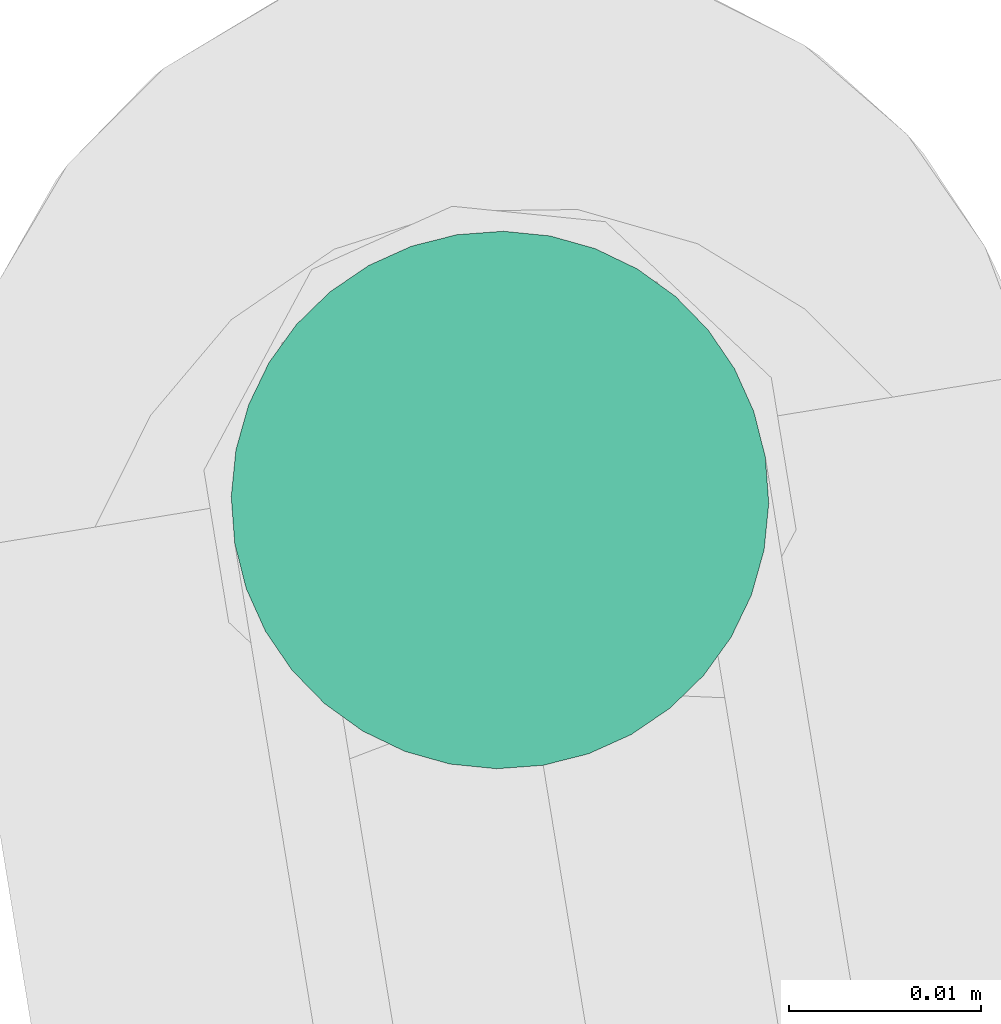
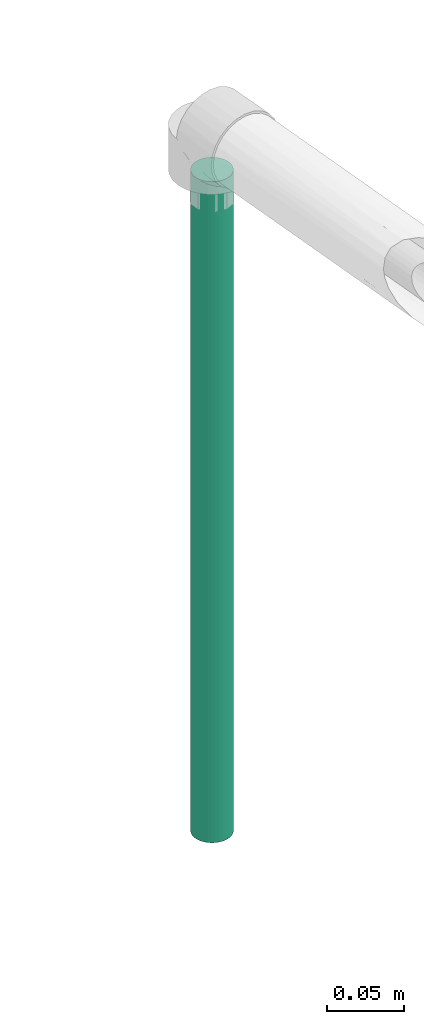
# One storey, part 55 of 56: 1 flow segment.
"""IFC2X3 building model written with IfcOpenShell, lengths in millimetres."""

from ifc_helpers import new_model, entity, si_unit, converted_unit, derived_unit, direction, frame, origin, origin_with_axes, place, context, subcontext, project, spatial, faceted_brep, material, type_object, element, save


model = new_model("IFC2X3")

# Units and contexts
model_context = context("Model", 3, precision=0.01, world=origin(), true_north=direction((6.12323399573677e-17, 1.0)))
plan_context = context("Plan", 3, precision=1e-05, world=origin_with_axes())
body_context = subcontext(model_context, "Body", "Model", "MODEL_VIEW")
ifc_project = project(units=[converted_unit("PLANEANGLEUNIT", "DEGREE", entity("IfcPositiveLengthMeasure", 0.0174532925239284), si_unit("PLANEANGLEUNIT", "RADIAN"), dimensions=[0, 0, 0, 0, 0, 0, 0]), si_unit("AREAUNIT", "SQUARE_METRE"), si_unit("LENGTHUNIT", "METRE", prefix="MILLI"), si_unit("MASSUNIT", "GRAM", prefix="KILO"), si_unit("POWERUNIT", "WATT"), si_unit("PRESSUREUNIT", "PASCAL", prefix="KILO"), si_unit("FORCEUNIT", "NEWTON", prefix="KILO"), si_unit("ELECTRICVOLTAGEUNIT", "VOLT"), si_unit("ELECTRICCURRENTUNIT", "AMPERE"), si_unit("THERMODYNAMICTEMPERATUREUNIT", "DEGREE_CELSIUS"), si_unit("TIMEUNIT", "SECOND"), si_unit("VOLUMEUNIT", "CUBIC_METRE"), derived_unit("LINEARVELOCITYUNIT", [(si_unit("LENGTHUNIT", "METRE"), 1), (si_unit("TIMEUNIT", "SECOND"), -1)]), derived_unit("VOLUMETRICFLOWRATEUNIT", [(si_unit("VOLUMEUNIT", "CUBIC_METRE"), 1), (si_unit("TIMEUNIT", "SECOND"), -1)]), derived_unit("THERMALTRANSMITTANCEUNIT", [(si_unit("POWERUNIT", "WATT"), 1), (si_unit("THERMODYNAMICTEMPERATUREUNIT", "KELVIN"), -1), (si_unit("AREAUNIT", "SQUARE_METRE"), -1)]), derived_unit("SOUNDPRESSUREUNIT", [(si_unit("PRESSUREUNIT", "PASCAL"), 1)])], contexts=[model_context, plan_context])

# Site, building, storey
site_placement = place(None, frame((-3.09682673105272e-06, 1.93776733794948e-05, 0.0), z_axis=(0.0, 0.0, 1.0), x_axis=(-0.160806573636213, 0.986985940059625, 0.0)))
site = spatial("IfcSite", under=ifc_project, at=site_placement, Name="Default", CompositionType="ELEMENT")
building_placement = place(site_placement, frame((0.0, 0.0, 0.0), z_axis=(0.0, 0.0, 1.0), x_axis=(1.0, -2.77555756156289e-17, 0.0)))
building = spatial("IfcBuilding", under=site, at=building_placement, Name="Bygning (endres i Project Information)", CompositionType="ELEMENT")
storey_placement = place(building_placement, frame((0.0, 0.0, 51360.0000000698), z_axis=(0.0, 0.0, 1.0), x_axis=(1.0, -2.77555756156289e-17, 0.0)))
storey = spatial("IfcBuildingStorey", under=building, at=storey_placement, Name="H01-Nivå D+0,36", CompositionType="ELEMENT", Elevation=51360.0000000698)

# Flow segment
ifc_material = material(Name="3103.001 KV")
pipe_segment_type = type_object("IfcPipeSegmentType", Name="Pipe Types:Kobberrør", PredefinedType="NOTDEFINED", material=ifc_material)
flow_segment_placement = place(storey_placement, frame((0.0, 0.0, 0.0), z_axis=(0.0, 0.0, 1.0), x_axis=(1.0, -2.77555756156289e-17, 0.0)))
element("IfcFlowSegment", 1, at=flow_segment_placement, inside=storey, type_object=pipe_segment_type, Name="Pipe Types:Kobberrør", ObjectType="Pipe Types:Kobberrør", context=body_context, shape_type="Brep", body=[
    faceted_brep([(1004403.11179519, -384350.157958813, 3139.99999993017), (1004402.89910373, -384352.589033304, 3139.99999993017), (1004402.89910373, -384352.589033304, 3666.00000000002), (1004403.11179519, -384350.157958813, 3666.00000000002), (1004402.89910373, -384347.726884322, 3139.99999993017), (1004402.89910373, -384347.726884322, 3666.00000000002), (1004402.26749188, -384345.3696768, 3139.99999993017), (1004402.26749188, -384345.3696768, 3666.00000000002), (1004401.23615084, -384343.157958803, 3139.99999993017), (1004401.23615084, -384343.157958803, 3666.00000000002), (1004399.83641739, -384341.158932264, 3139.99999993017), (1004399.83641739, -384341.158932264, 3666.00000000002), (1004398.11082171, -384339.433336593, 3139.99999993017), (1004398.11082171, -384339.433336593, 3666.00000000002), (1004396.11179518, -384338.033603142, 3139.99999993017), (1004396.11179518, -384338.033603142, 3666.00000000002), (1004393.90007718, -384337.002262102, 3139.99999993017), (1004393.90007718, -384337.002262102, 3666.00000000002), (1004391.54286966, -384336.37065025, 3139.99999993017), (1004391.54286966, -384336.37065025, 3666.00000000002), (1004389.11179517, -384336.157958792, 3139.99999993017), (1004389.11179517, -384336.157958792, 3666.00000000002), (1004386.68072067, -384336.37065025, 3139.99999993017), (1004386.68072067, -384336.37065025, 3666.00000000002), (1004384.32351315, -384337.002262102, 3139.99999993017), (1004384.32351315, -384337.002262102, 3666.00000000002), (1004382.11179515, -384338.033603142, 3139.99999993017), (1004382.11179515, -384338.033603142, 3666.00000000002), (1004380.11276862, -384339.433336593, 3139.99999993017), (1004380.11276862, -384339.433336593, 3666.00000000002), (1004378.38717295, -384341.158932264, 3139.99999993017), (1004378.38717295, -384341.158932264, 3666.00000000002), (1004376.98743949, -384343.157958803, 3139.99999993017), (1004376.98743949, -384343.157958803, 3666.00000000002), (1004375.95609845, -384345.3696768, 3139.99999993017), (1004375.95609845, -384345.3696768, 3666.00000000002), (1004375.3244866, -384347.726884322, 3139.99999993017), (1004375.3244866, -384347.726884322, 3666.00000000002), (1004375.11179514, -384350.157958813, 3139.99999993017), (1004375.11179514, -384350.157958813, 3666.00000000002), (1004375.3244866, -384352.589033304, 3139.99999993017), (1004375.3244866, -384352.589033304, 3666.00000000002), (1004375.95609845, -384354.946240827, 3139.99999993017), (1004375.95609845, -384354.946240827, 3666.00000000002), (1004376.98743949, -384357.157958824, 3139.99999993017), (1004376.98743949, -384357.157958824, 3666.00000000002), (1004378.38717295, -384359.156985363, 3139.99999993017), (1004378.38717295, -384359.156985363, 3666.00000000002), (1004380.11276862, -384360.882581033, 3139.99999993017), (1004380.11276862, -384360.882581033, 3666.00000000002), (1004382.11179515, -384362.282314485, 3139.99999993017), (1004382.11179515, -384362.282314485, 3666.00000000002), (1004384.32351315, -384363.313655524, 3139.99999993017), (1004384.32351315, -384363.313655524, 3666.00000000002), (1004386.68072067, -384363.945267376, 3139.99999993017), (1004386.68072067, -384363.945267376, 3666.00000000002), (1004389.11179517, -384364.157958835, 3139.99999993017), (1004389.11179517, -384364.157958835, 3666.00000000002), (1004391.54286966, -384363.945267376, 3139.99999993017), (1004391.54286966, -384363.945267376, 3666.00000000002), (1004393.90007718, -384363.313655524, 3139.99999993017), (1004393.90007718, -384363.313655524, 3666.00000000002), (1004396.11179518, -384362.282314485, 3139.99999993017), (1004396.11179518, -384362.282314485, 3666.00000000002), (1004398.11082171, -384360.882581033, 3139.99999993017), (1004398.11082171, -384360.882581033, 3666.00000000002), (1004399.83641739, -384359.156985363, 3139.99999993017), (1004399.83641739, -384359.156985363, 3666.00000000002), (1004401.23615084, -384357.157958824, 3139.99999993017), (1004401.23615084, -384357.157958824, 3666.00000000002), (1004402.26749188, -384354.946240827, 3139.99999993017), (1004402.26749188, -384354.946240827, 3666.00000000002)], [[[0, 1, 2, 3]], [[4, 0, 3, 5]], [[6, 4, 5, 7]], [[8, 6, 7, 9]], [[10, 8, 9, 11]], [[12, 10, 11, 13]], [[14, 12, 13, 15]], [[16, 14, 15, 17]], [[18, 16, 17, 19]], [[20, 18, 19, 21]], [[22, 20, 21, 23]], [[24, 22, 23, 25]], [[26, 24, 25, 27]], [[28, 26, 27, 29]], [[30, 28, 29, 31]], [[32, 30, 31, 33]], [[34, 32, 33, 35]], [[36, 34, 35, 37]], [[38, 36, 37, 39]], [[40, 38, 39, 41]], [[42, 40, 41, 43]], [[44, 42, 43, 45]], [[46, 44, 45, 47]], [[48, 46, 47, 49]], [[50, 48, 49, 51]], [[52, 50, 51, 53]], [[54, 52, 53, 55]], [[56, 54, 55, 57]], [[58, 56, 57, 59]], [[60, 58, 59, 61]], [[62, 60, 61, 63]], [[64, 62, 63, 65]], [[66, 64, 65, 67]], [[68, 66, 67, 69]], [[70, 68, 69, 71]], [[1, 70, 71, 2]], [[3, 2, 71, 69, 67, 65, 63, 61, 59, 57, 55, 53, 51, 49, 47, 45, 43, 41, 39, 37, 35, 33, 31, 29, 27, 25, 23, 21, 19, 17, 15, 13, 11, 9, 7, 5]], [[4, 6, 8, 10, 12, 14, 16, 18, 20, 22, 24, 26, 28, 30, 32, 34, 36, 38, 40, 42, 44, 46, 48, 50, 52, 54, 56, 58, 60, 62, 64, 66, 68, 70, 1, 0]]], orient=[[False], [False], [False], [False], [False], [False], [False], [False], [False], [False], [False], [False], [False], [False], [False], [False], [False], [False], [False], [False], [False], [False], [False], [False], [False], [False], [False], [False], [False], [False], [False], [False], [False], [False], [False], [False], [False], [False]]),
])

save(model, "model.ifc")
